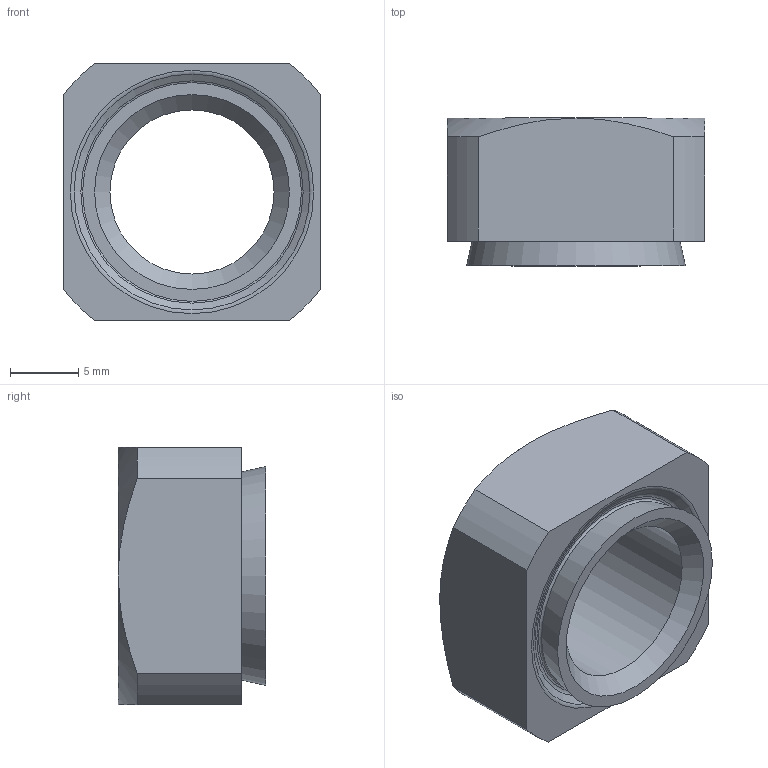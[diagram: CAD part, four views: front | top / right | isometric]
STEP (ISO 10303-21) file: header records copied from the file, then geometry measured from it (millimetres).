
FILE_DESCRIPTION(/* description */ (''),/* implementation_level */ '2;1');
FILE_NAME(/* name */ 'D:\Sukhmani\Fastit\HN Nut\HN 12-2.3.stp',/* time_stamp */ '2024-03-14T12:22:20+06:00',/* author */ ('edc.sukhmani'),/* organization */ (''),/* preprocessor_version */ 'ST-DEVELOPER v18.1',/* originating_system */ 'Autodesk Inventor 2022',/* authorisation */ '');
FILE_SCHEMA (('AUTOMOTIVE_DESIGN { 1 0 10303 214 3 1 1 }'));
Length unit declared in the file: millimetre
Products named in the file (1): HN 12-2.3
Bounding box: 18.8 x 10.8 x 18.8 mm (x, y, z)
Volume: 2098.9 mm3; surface area: 1560.2 mm2
Topology: 1 solids, 1 shells, 25 faces, 56 edges, 35 vertices
Faces by surface type: cone 8, plane 8, cylinder 6, torus 3
Full cylindrical faces by diameter (mm): 12 x1, 14.25 x1
Entity records: 743 total; most frequent: CARTESIAN_POINT 133, DIRECTION 130, ORIENTED_EDGE 112, EDGE_CURVE 56, AXIS2_PLACEMENT_3D 56, VERTEX_POINT 35, CIRCLE 30, EDGE_LOOP 29
